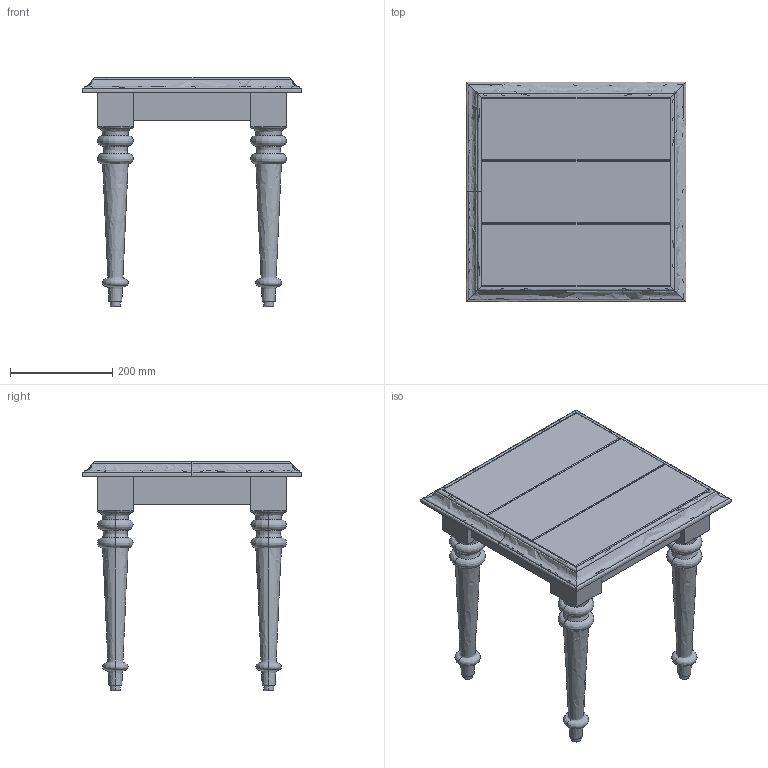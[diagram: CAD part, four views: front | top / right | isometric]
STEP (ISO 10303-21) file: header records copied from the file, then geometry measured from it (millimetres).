
FILE_DESCRIPTION(/* description */ (''),/* implementation_level */ '2;1');
FILE_NAME(/* name */ 'K5RDV2~P',/* time_stamp */ '2020-06-18T18:35:05+09:00',/* author */ (''),/* organization */ (''),/* preprocessor_version */ 'ST-DEVELOPER v15',/* originating_system */ '',/* authorisation */ '');
FILE_SCHEMA (('AUTOMOTIVE_DESIGN'));
Length unit declared in the file: millimetre
Products named in the file (1): Document
Bounding box: 430 x 430 x 450 mm (x, y, z)
Volume: 9971435.7 mm3; surface area: 1200348.9 mm2
Topology: 16 solids, 16 shells, 207 faces, 475 edges, 276 vertices
Faces by surface type: bspline 139, plane 68
Entity records: 10956 total; most frequent: CARTESIAN_POINT 8183, ORIENTED_EDGE 902, EDGE_CURVE 451, VERTEX_POINT 276, B_SPLINE_CURVE_WITH_KNOTS 249, ADVANCED_FACE 207, FACE_OUTER_BOUND 207, EDGE_LOOP 207
